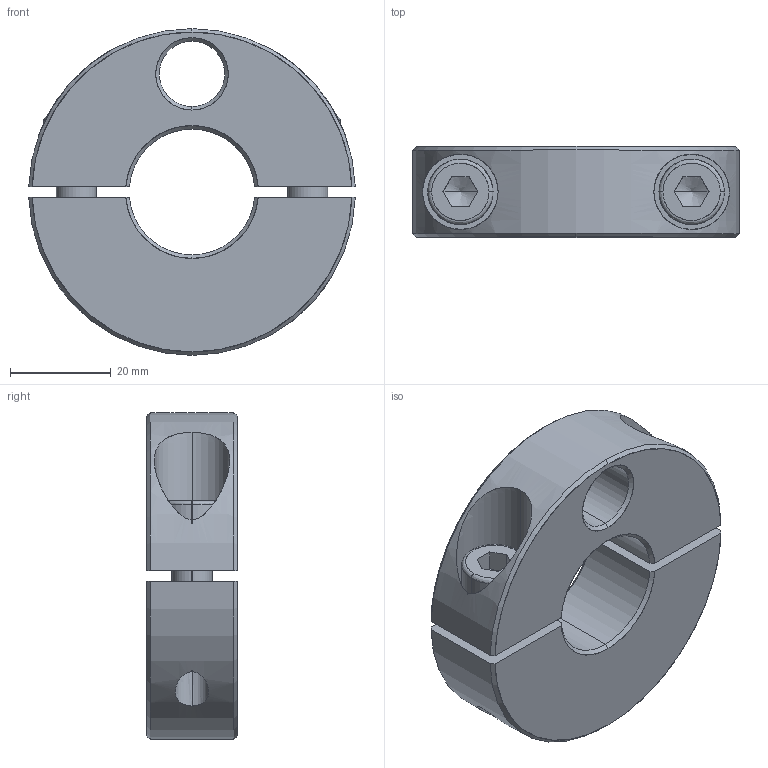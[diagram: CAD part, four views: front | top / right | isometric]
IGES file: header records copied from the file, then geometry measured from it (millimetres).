
Start section: SolidWorks IGES FILE using analytic representation for surfaces
Global section: file name: C:\WIX2\Positioning\3865\3865W125.igs; native system: SolidWorks 2003 by SolidWorks Corporation; preprocessor: Version 5.3; author: Joan; date: 030722.173011; units: millimetre
Bounding box: 64.97 x 18 x 65 mm (x, y, z)
Surface area: 16718.1 mm2 (no closed solid volume)
Topology: 0 solids, 0 shells, 100 faces, 1682 edges, 1678 vertices
Faces by surface type: revolution 66, bspline 34
